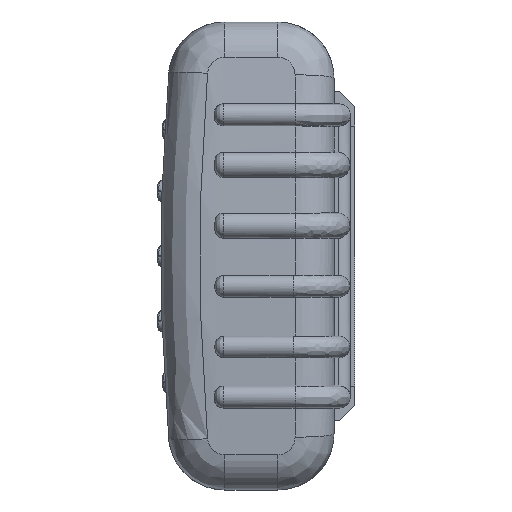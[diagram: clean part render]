
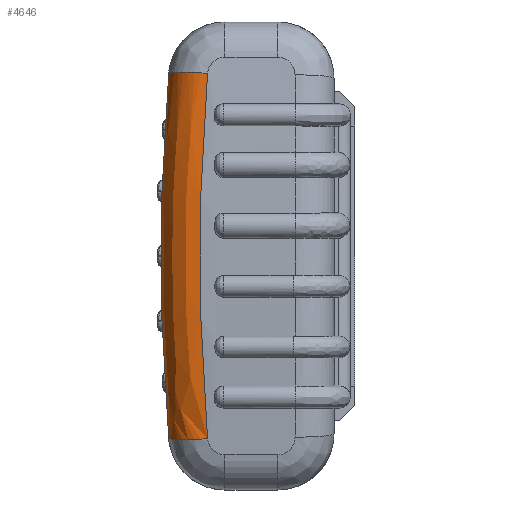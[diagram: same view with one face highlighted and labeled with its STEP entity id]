
A CAD part, left-side view. The second image highlights one B-rep face of the part: STEP entity #4646.
In plain terms, the highlighted free-form (B-spline) face has degree [3, 2] with [6, 3] control points.
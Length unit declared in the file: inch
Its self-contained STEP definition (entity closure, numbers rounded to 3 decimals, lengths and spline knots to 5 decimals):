
#933 = B_SPLINE_CURVE_WITH_KNOTS ( 'NONE', 3,
 ( #16517, #41032, #45166, #20621, #49267, #24723 ),
 .UNSPECIFIED., .F., .F.,
 ( 4, 2, 4 ),
 ( 0.01199, 0.05417, 0.09634 ),
 .UNSPECIFIED. ) ;
#2337 = CARTESIAN_POINT ( 'NONE',  ( 3.08105, 1.50219, 1.65752 ) ) ;
#2494 = CARTESIAN_POINT ( 'NONE',  ( 3.43395, 1.14913, -1.65937 ) ) ;
#4646 = ADVANCED_FACE ( 'NONE', ( #16789 ), #22958, .T. ) ;
#4962 = ORIENTED_EDGE ( 'NONE', *, *, #32292, .T. ) ;
#5493 = EDGE_CURVE ( 'NONE', #39414, #45046, #933, .T. ) ;
#6289 = EDGE_LOOP ( 'NONE', ( #13946, #4962, #28456, #9587 ) ) ;
#6459 = CARTESIAN_POINT ( 'NONE',  ( 3.48252, 1.5478, 1.13125 ) ) ;
#6637 = CARTESIAN_POINT ( 'NONE',  ( 3.08105, 1.50219, -1.65752 ) ) ;
#6946 = CARTESIAN_POINT ( 'NONE',  ( 3.43395, 1.14913, 1.65937 ) ) ;
#8743 = AXIS2_PLACEMENT_3D ( 'NONE', #36488, #11942, #40602 ) ;
#9103 = CARTESIAN_POINT ( 'NONE',  ( 3.50871, 1.21817, -0.55539 ) ) ;
#9587 = ORIENTED_EDGE ( 'NONE', *, *, #39527, .T. ) ;
#9766 = CIRCLE ( 'NONE', #10511, 0.35433 ) ;
#10511 = AXIS2_PLACEMENT_3D ( 'NONE', #21626, #50282, #25723 ) ;
#10594 = CARTESIAN_POINT ( 'NONE',  ( 3.50871, 1.21817, 0.55953 ) ) ;
#11942 = DIRECTION ( 'NONE',  ( 0.09, 0.084, -0.992 ) ) ;
#13241 = CARTESIAN_POINT ( 'NONE',  ( 3.48368, 1.19505, 1.1085 ) ) ;
#13318 = CARTESIAN_POINT ( 'NONE',  ( 3.08105, 1.50219, -1.65752 ) ) ;
#13946 = ORIENTED_EDGE ( 'NONE', *, *, #17381, .F. ) ;
#14729 = CARTESIAN_POINT ( 'NONE',  ( 3.15438, 1.5725, 0.5589 ) ) ;
#16517 = CARTESIAN_POINT ( 'NONE',  ( 3.08105, 1.50219, 1.65752 ) ) ;
#16789 = FACE_OUTER_BOUND ( 'NONE', #6289, .T. ) ;
#17381 = EDGE_CURVE ( 'NONE', #24493, #20829, #24255, .T. ) ;
#18830 = CARTESIAN_POINT ( 'NONE',  ( 3.50871, 1.5725, -0.56965 ) ) ;
#20150 = CIRCLE ( 'NONE', #8743, 0.35433 ) ;
#20621 = CARTESIAN_POINT ( 'NONE',  ( 3.15438, 1.5725, -0.55517 ) ) ;
#20829 = VERTEX_POINT ( 'NONE', #6946 ) ;
#21626 = CARTESIAN_POINT ( 'NONE',  ( 3.08105, 1.14913, -1.62751 ) ) ;
#22933 = CARTESIAN_POINT ( 'NONE',  ( 3.48332, 1.19471, -1.11253 ) ) ;
#22958 =( BOUNDED_SURFACE ( )  B_SPLINE_SURFACE ( 3, 2, ( 
 ( #51401, #51209, #2337 ),
 ( #31041, #6459, #35146 ),
 ( #10594, #39245, #14729 ),
 ( #43364, #18830, #47469 ),
 ( #22933, #51577, #27065 ),
 ( #2494, #31212, #6637 ) ),
 .UNSPECIFIED., .F., .F., .F. ) 
 B_SPLINE_SURFACE_WITH_KNOTS ( ( 4, 2, 4 ),
 ( 3, 3 ),
 ( 0.08412, 0.12523, 0.16633 ),
 ( 0., 1. ),
 .UNSPECIFIED. ) 
 GEOMETRIC_REPRESENTATION_ITEM ( )  RATIONAL_B_SPLINE_SURFACE ( (
 ( 1., 0.71, 1.),
 ( 1., 0.708, 1.),
 ( 1., 0.707, 1.),
 ( 1., 0.707, 1.),
 ( 1., 0.708, 1.),
 ( 1., 0.71, 1.) ) ) 
 REPRESENTATION_ITEM ( '' )  SURFACE ( )  );
#24255 = B_SPLINE_CURVE_WITH_KNOTS ( 'NONE', 3,
 ( #25398, #26703, #9103, #37778, #13241, #41886 ),
 .UNSPECIFIED., .F., .F.,
 ( 4, 2, 4 ),
 ( 0.00376, 0.04598, 0.08821 ),
 .UNSPECIFIED. ) ;
#24493 = VERTEX_POINT ( 'NONE', #30560 ) ;
#24723 = CARTESIAN_POINT ( 'NONE',  ( 3.08105, 1.50219, -1.65752 ) ) ;
#25398 = CARTESIAN_POINT ( 'NONE',  ( 3.43395, 1.14913, -1.65937 ) ) ;
#25723 = DIRECTION ( 'NONE',  ( 0.996, 0., -0.09 ) ) ;
#26703 = CARTESIAN_POINT ( 'NONE',  ( 3.48368, 1.19505, -1.1085 ) ) ;
#27065 = CARTESIAN_POINT ( 'NONE',  ( 3.12948, 1.54861, -1.11129 ) ) ;
#28456 = ORIENTED_EDGE ( 'NONE', *, *, #5493, .F. ) ;
#30560 = CARTESIAN_POINT ( 'NONE',  ( 3.43395, 1.14913, -1.65937 ) ) ;
#31041 = CARTESIAN_POINT ( 'NONE',  ( 3.48332, 1.19471, 1.11253 ) ) ;
#31212 = CARTESIAN_POINT ( 'NONE',  ( 3.43128, 1.49952, -1.68891 ) ) ;
#32292 = EDGE_CURVE ( 'NONE', #24493, #45046, #9766, .T. ) ;
#35146 = CARTESIAN_POINT ( 'NONE',  ( 3.12948, 1.54861, 1.11129 ) ) ;
#36488 = CARTESIAN_POINT ( 'NONE',  ( 3.08105, 1.14913, 1.62751 ) ) ;
#37778 = CARTESIAN_POINT ( 'NONE',  ( 3.50871, 1.21817, 0.55539 ) ) ;
#39245 = CARTESIAN_POINT ( 'NONE',  ( 3.50871, 1.5725, 0.56965 ) ) ;
#39414 = VERTEX_POINT ( 'NONE', #47063 ) ;
#39527 = EDGE_CURVE ( 'NONE', #39414, #20829, #20150, .T. ) ;
#40602 = DIRECTION ( 'NONE',  ( -0.996, 0., -0.09 ) ) ;
#41032 = CARTESIAN_POINT ( 'NONE',  ( 3.1298, 1.54892, 1.10766 ) ) ;
#41886 = CARTESIAN_POINT ( 'NONE',  ( 3.43395, 1.14913, 1.65937 ) ) ;
#43364 = CARTESIAN_POINT ( 'NONE',  ( 3.50871, 1.21817, -0.55953 ) ) ;
#45046 = VERTEX_POINT ( 'NONE', #13318 ) ;
#45166 = CARTESIAN_POINT ( 'NONE',  ( 3.15438, 1.5725, 0.55517 ) ) ;
#47063 = CARTESIAN_POINT ( 'NONE',  ( 3.08105, 1.50219, 1.65752 ) ) ;
#47469 = CARTESIAN_POINT ( 'NONE',  ( 3.15438, 1.5725, -0.5589 ) ) ;
#49267 = CARTESIAN_POINT ( 'NONE',  ( 3.1298, 1.54892, -1.10766 ) ) ;
#50282 = DIRECTION ( 'NONE',  ( 0.09, 0.084, 0.992 ) ) ;
#51209 = CARTESIAN_POINT ( 'NONE',  ( 3.43128, 1.49952, 1.68891 ) ) ;
#51401 = CARTESIAN_POINT ( 'NONE',  ( 3.43395, 1.14913, 1.65937 ) ) ;
#51577 = CARTESIAN_POINT ( 'NONE',  ( 3.48252, 1.5478, -1.13125 ) ) ;
